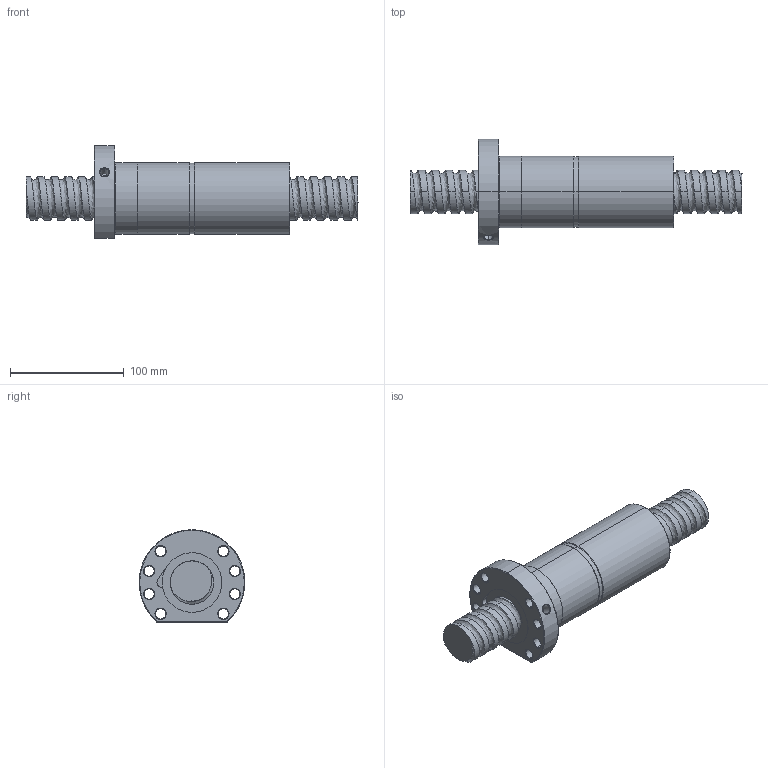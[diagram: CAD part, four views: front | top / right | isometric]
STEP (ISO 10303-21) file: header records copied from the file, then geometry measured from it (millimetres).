
FILE_DESCRIPTION (( 'STEP AP214' ), '1' );
FILE_NAME ('FDDC03812T5-F-B.STEP', '2010-07-06T05:34:32', ( 'XPAUTO' ), ( 'XPAUTO' ), 'SwSTEP 2.0', 'SolidWorks 2007', '' );
FILE_SCHEMA (( 'AUTOMOTIVE_DESIGN' ));
Products named in the file (3): FDDC03812T5-F-B; FDDC03812T5-F-B.sldasm-Part-2_預設; FDDC03812T5-F-B.sldasm-Part-1_預設
Assembly tree (2 placements, depth 2):
  FDDC03812T5-F-B
    FDDC03812T5-F-B.sldasm-Part-1_預設
    FDDC03812T5-F-B.sldasm-Part-2_預設
Bounding box: 292 x 92.99 x 81.5 mm (x, y, z)
Volume: 682949.4 mm3; surface area: 112575 mm2
Topology: 2 solids, 2 shells, 159 faces, 398 edges, 248 vertices
Faces by surface type: cylinder 94, cone 32, plane 19, torus 9, bspline 5
Entity records: 46095 total; most frequent: CARTESIAN_POINT 42328, ORIENTED_EDGE 796, DIRECTION 730, EDGE_CURVE 398, AXIS2_PLACEMENT_3D 296, VERTEX_POINT 248, EDGE_LOOP 184, FACE_OUTER_BOUND 159
